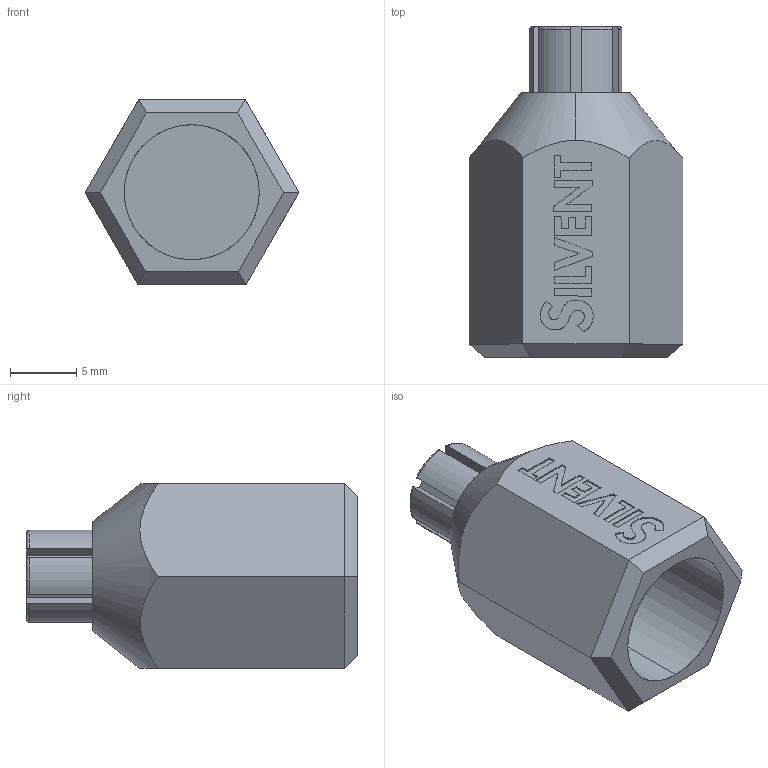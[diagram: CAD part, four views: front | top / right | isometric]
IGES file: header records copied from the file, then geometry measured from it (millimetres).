
Start section: SolidWorks IGES file using analytic representation for surfaces
Global section: file name: G:\Silvent\Ritningar\Övrigt\IGES\Silvent 700M.IGS; native system: SolidWorks 2006 by SolidWorks Corporation; preprocessor: SolidWorks 2006 by SolidWorks Corporation; author: SilvRaTi; date: 070109.133325; units: millimetre
Bounding box: 16.17 x 25 x 13.96 mm (x, y, z)
Surface area: 1710.5 mm2 (no closed solid volume)
Topology: 0 solids, 0 shells, 179 faces, 1310 edges, 1310 vertices
Faces by surface type: bspline 95, revolution 84
